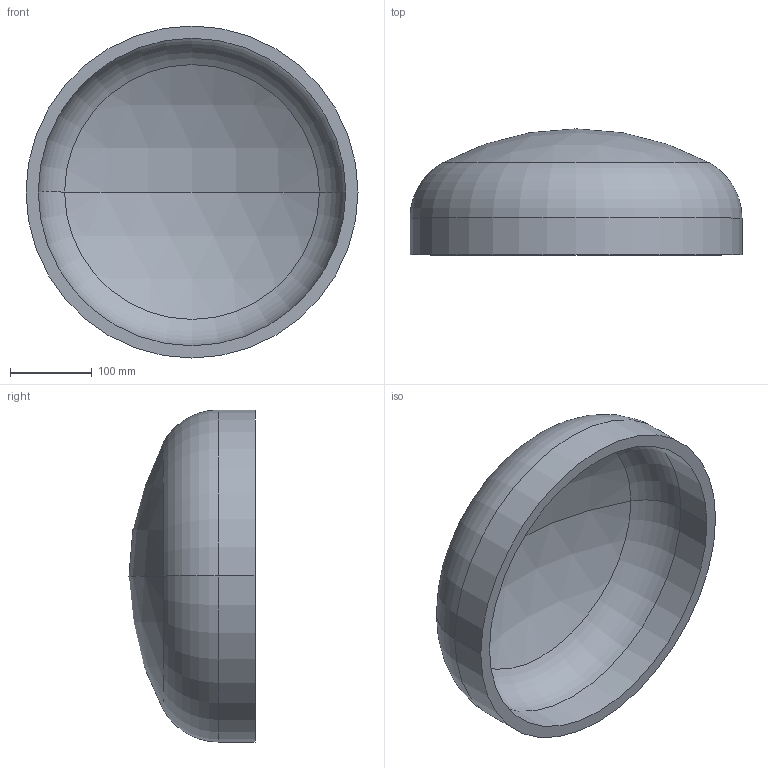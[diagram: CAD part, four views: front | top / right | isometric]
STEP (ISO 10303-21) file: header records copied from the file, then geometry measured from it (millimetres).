
FILE_DESCRIPTION (( 'STEP AP203' ), '1' );
FILE_NAME ('DIN 28013 Korbbogenform_-_Boden DIN 28013 - 406,4 x 45 - I - s=15.step', '2016-07-01T07:49:14', ( '' ), ( '' ), 'SwSTEP 2.0', 'SolidWorks 2013', '' );
FILE_SCHEMA (( 'CONFIG_CONTROL_DESIGN' ));
Length unit declared in the file: millimetre
Products named in the file (1): DIN 28013 Korbbogenform_-_Boden DIN 28013 - 406,4 x 45 - I - s=15
Bounding box: 406.4 x 154.26 x 406.4 mm (x, y, z)
Volume: 3393884.2 mm3; surface area: 471433.3 mm2
Topology: 1 solids, 1 shells, 13 faces, 24 edges, 14 vertices
Faces by surface type: torus 4, cylinder 4, sphere 4, plane 1
Entity records: 407 total; most frequent: DIRECTION 72, CARTESIAN_POINT 52, ORIENTED_EDGE 48, AXIS2_PLACEMENT_3D 34, EDGE_CURVE 24, CIRCLE 20, VERTEX_POINT 14, EDGE_LOOP 14
